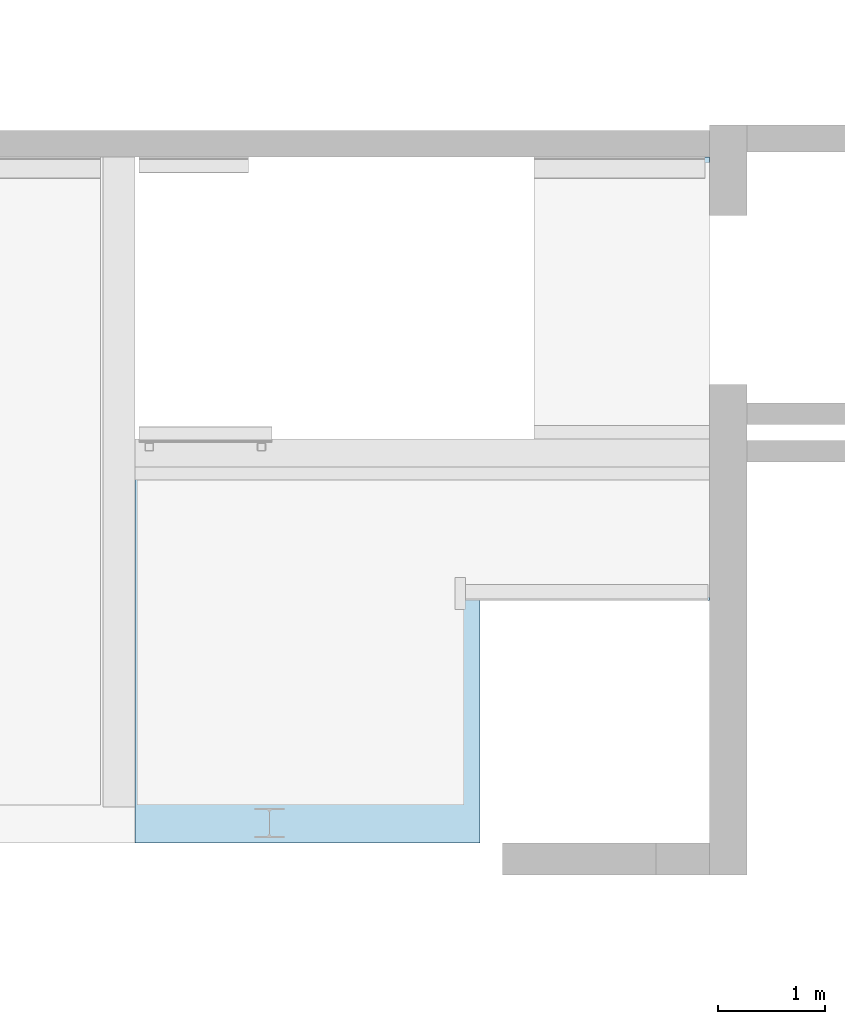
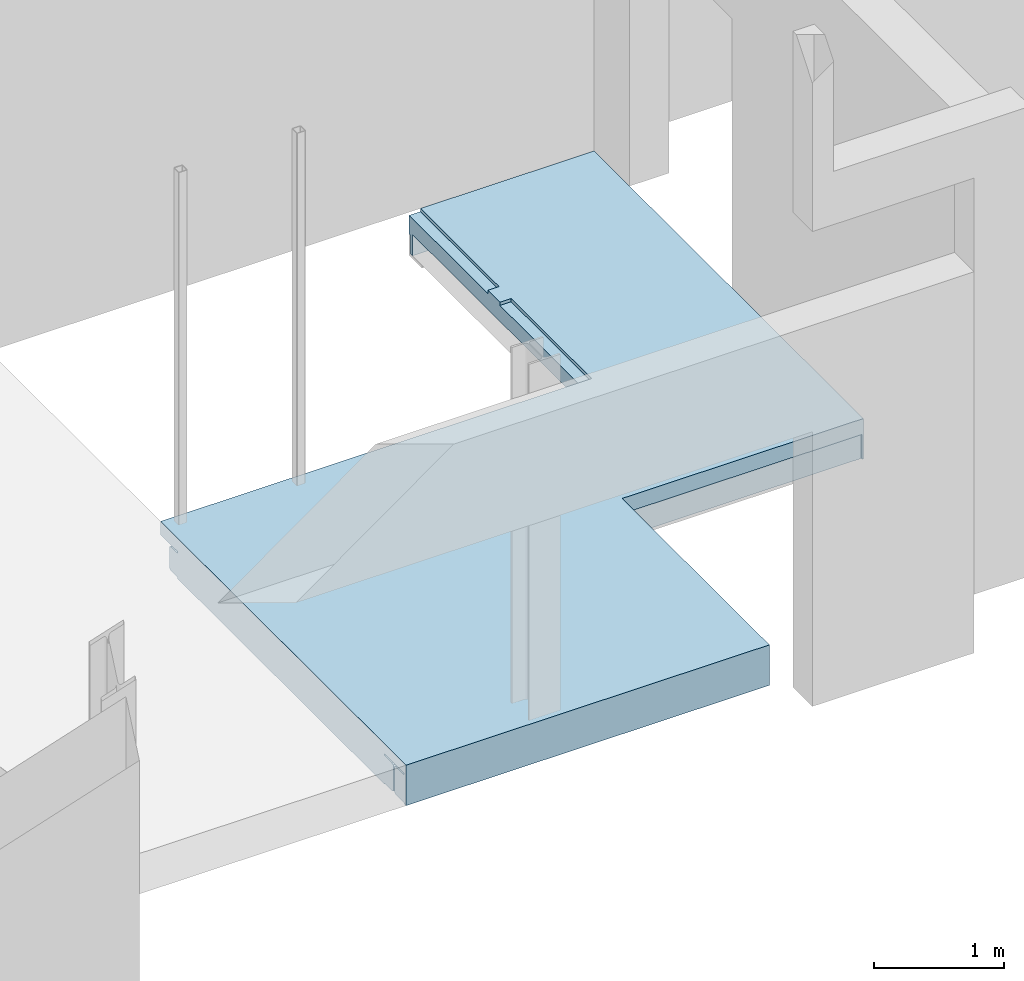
# One storey, part 35 of 37: 1 slab.
"""IFC2X3 building model written with IfcOpenShell, lengths in millimetres."""

from ifc_helpers import new_model, entity, si_unit, converted_unit, derived_unit, direction, frame, origin, place, context, subcontext, project, spatial, faceted_brep, material, type_object, element, save


model = new_model("IFC2X3")

# Units and contexts
model_context = context("Model", 3, precision=0.01, world=origin(), true_north=direction((6.12303176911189e-17, 1.0)))
body_context = subcontext(model_context, "Body", "Model", "MODEL_VIEW")
ifc_project = project(units=[si_unit("LENGTHUNIT", "METRE", prefix="MILLI"), si_unit("AREAUNIT", "SQUARE_METRE", prefix="MILLI"), si_unit("VOLUMEUNIT", "CUBIC_METRE"), converted_unit("PLANEANGLEUNIT", "DEGREE", entity("IfcRatioMeasure", 0.0174532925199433), si_unit("PLANEANGLEUNIT", "RADIAN"), dimensions=[0, 0, 0, 0, 0, 0, 0]), si_unit("MASSUNIT", "GRAM", prefix="KILO"), derived_unit("MASSDENSITYUNIT", [(si_unit("MASSUNIT", "GRAM", prefix="KILO"), 1), (si_unit("LENGTHUNIT", "METRE"), -3)]), derived_unit("MOMENTOFINERTIAUNIT", [(si_unit("LENGTHUNIT", "METRE"), 4)]), si_unit("TIMEUNIT", "SECOND"), si_unit("FREQUENCYUNIT", "HERTZ"), si_unit("THERMODYNAMICTEMPERATUREUNIT", "DEGREE_CELSIUS"), derived_unit("THERMALTRANSMITTANCEUNIT", [(si_unit("MASSUNIT", "GRAM", prefix="KILO"), 1), (si_unit("THERMODYNAMICTEMPERATUREUNIT", "KELVIN"), -1), (si_unit("TIMEUNIT", "SECOND"), -3)]), derived_unit("VOLUMETRICFLOWRATEUNIT", [(si_unit("LENGTHUNIT", "METRE"), 3), (si_unit("TIMEUNIT", "SECOND"), -1)]), si_unit("ELECTRICCURRENTUNIT", "AMPERE"), si_unit("ELECTRICVOLTAGEUNIT", "VOLT"), si_unit("POWERUNIT", "WATT"), si_unit("FORCEUNIT", "NEWTON", prefix="KILO"), si_unit("ILLUMINANCEUNIT", "LUX"), si_unit("LUMINOUSFLUXUNIT", "LUMEN"), si_unit("LUMINOUSINTENSITYUNIT", "CANDELA"), derived_unit("USERDEFINED", [(si_unit("MASSUNIT", "GRAM", prefix="KILO"), -1), (si_unit("LENGTHUNIT", "METRE"), -2), (si_unit("TIMEUNIT", "SECOND"), 3), (si_unit("LUMINOUSFLUXUNIT", "LUMEN"), 1)]), derived_unit("LINEARVELOCITYUNIT", [(si_unit("LENGTHUNIT", "METRE"), 1), (si_unit("TIMEUNIT", "SECOND"), -1)]), si_unit("PRESSUREUNIT", "PASCAL"), derived_unit("USERDEFINED", [(si_unit("LENGTHUNIT", "METRE"), -2), (si_unit("MASSUNIT", "GRAM", prefix="KILO"), 1), (si_unit("TIMEUNIT", "SECOND"), -2)]), derived_unit("LINEARFORCEUNIT", [(si_unit("MASSUNIT", "GRAM", prefix="KILO"), 1), (si_unit("LENGTHUNIT", "METRE"), 1), (si_unit("TIMEUNIT", "SECOND"), -2), (si_unit("LENGTHUNIT", "METRE"), -1)]), derived_unit("PLANARFORCEUNIT", [(si_unit("MASSUNIT", "GRAM", prefix="KILO"), 1), (si_unit("LENGTHUNIT", "METRE"), 1), (si_unit("TIMEUNIT", "SECOND"), -2), (si_unit("LENGTHUNIT", "METRE"), -2)])], contexts=[model_context])

# Site, building, storey
site_placement = place(None, origin())
site = spatial("IfcSite", under=ifc_project, at=site_placement, Name="Theater aan de Parade", CompositionType="ELEMENT")
building_placement = place(site_placement, origin())
building = spatial("IfcBuilding", under=site, at=building_placement, Name="Theater aan de Parade", CompositionType="ELEMENT")
storey_placement = place(building_placement, frame((0.0, 0.0, 5020.0)))
storey = spatial("IfcBuildingStorey", under=building, at=storey_placement, Name="01 eerste verdieping", CompositionType="ELEMENT", Elevation=5020.0)

# Slab
ifc_material = material(Name="00_PBT_MAT_beton t.p.g._C30/37")
slab_type = type_object("IfcSlabType", Name="Floor:28_PBT_FL_druklaag_d=180 (=380)_C30/37", PredefinedType="FLOOR")
slab_placement = place(storey_placement, origin())
element("IfcSlab", 1, at=slab_placement, inside=storey, type_object=slab_type, material=ifc_material, Name="Floor:28_PBT_FL_druklaag_d=180 (=380)_C30/37", ObjectType="Floor:28_PBT_FL_druklaag_d=180 (=380)_C30/37", PredefinedType="FLOOR", context=body_context, shape_type="Brep", body=[
    faceted_brep([(65076.2561009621, 45117.5638256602, -460.0), (65212.0520755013, 45117.5638256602, -460.0), (65212.0520755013, 42850.0, -460.0), (64962.0520755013, 42850.0, -460.0), (61983.8822563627, 42850.0, -460.0), (61983.8822563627, 42885.0, -460.0), (65093.8848518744, 42885.0, -460.0), (65093.8848518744, 43185.0, -460.0), (61983.8822563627, 43185.0, -460.0), (61983.8822563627, 46366.8631171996, -460.0), (67356.2561009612, 46366.8631171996, -460.0), (67356.2561009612, 46346.8631171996, -460.0), (62001.4285714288, 46346.8631171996, -460.0), (62001.4285714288, 43205.0, -460.0), (65062.0520755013, 43205.0, -460.0), (65062.0520755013, 45142.5638256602, -460.0), (65066.2561009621, 45142.5638256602, -460.0), (65066.2561009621, 45032.5639256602, -460.0), (65076.2561009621, 45032.5639256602, -460.0), (67343.5561009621, 45142.5638256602, -460.0), (67356.2561009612, 45142.5638256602, -460.0), (67356.2561009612, 45117.5638256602, -460.0), (67343.5561009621, 45117.5638256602, -460.0), (67343.5561009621, 45132.5638256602, -460.0), (65076.2561009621, 45132.5638256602, -460.0), (65076.2561009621, 45142.5638256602, -460.0), (65713.8822564, 46646.8631171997, -460.0), (67356.2561009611, 46646.8631171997, -460.0), (67356.2561009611, 46626.8631171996, -460.0), (65713.8822564, 46626.8631171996, -460.0), (67356.2561009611, 49261.9979908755, -460.0), (67356.2561009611, 49211.5644848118, -460.0), (65713.8822564, 49211.5644848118, -460.0), (65713.8822564, 49236.4478904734, -460.0), (67313.8822523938, 49236.4478904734, -460.0), (67313.8822523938, 49261.9979908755, -460.0), (67356.2561009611, 49211.5644848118, -260.0), (67356.2561009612, 46646.8631171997, -260.0), (65713.8822564, 46646.8631171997, -260.0), (65713.8822564, 49211.5644848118, -260.0), (62001.4285714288, 43205.0, -260.0), (62001.4285714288, 46346.8631171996, -260.0), (67356.2561009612, 46346.8631171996, -260.0), (67356.2561009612, 45142.5638256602, -260.0), (65076.2561009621, 45142.5638256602, -260.0), (65076.2561009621, 45332.5639256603, -260.0), (65066.2561009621, 45332.5639256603, -260.0), (64976.2561009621, 45332.5639256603, -260.0), (64976.2561009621, 45032.5639256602, -260.0), (65062.0520755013, 45032.5639256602, -260.0), (65062.0520755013, 43205.0, -260.0), (65066.2561009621, 45142.5638256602, -260.0), (65062.0520755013, 45142.5638256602, -260.0), (65076.2561009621, 45132.5638256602, -250.0), (65076.2561009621, 45332.5639256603, -250.0), (65076.2561009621, 45032.5639256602, -250.0), (65076.2561009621, 45117.5638256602, -250.0), (65813.8822564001, 46626.8631171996, -80.0), (61983.8822563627, 46626.8631171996, -80.0), (61983.8822563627, 42850.0, -80.0), (65212.0520755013, 42850.0, -80.0), (65212.0520755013, 45117.5638256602, -80.0), (67356.2561009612, 45117.5638256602, -80.0), (67356.2561009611, 49261.9979908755, -80.0), (65813.8822564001, 49261.9979908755, -80.0), (65813.8822564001, 48051.9979908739, -80.0), (65713.8822564, 48051.9979908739, -80.0), (65713.8822564, 47866.8631171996, -80.0), (65813.8822564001, 47866.8631171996, -80.0), (61983.8822563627, 46626.8631171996, -205.0), (61983.8822563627, 46366.8631171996, -205.0), (61983.8822563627, 46366.8631171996, -222.499999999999), (61983.8822563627, 46467.8631171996, -222.499999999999), (61983.8822563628, 46472.1057578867, -224.257359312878), (61983.8822563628, 46476.3483985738, -226.014718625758), (61983.8822563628, 46480.591039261, -227.772077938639), (61983.8822563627, 46484.8336799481, -229.529437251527), (61983.8822563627, 46486.591039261, -233.772077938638), (61983.8822563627, 46488.3483985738, -238.014718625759), (61983.8822563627, 46490.2715136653, -242.657529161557), (61983.8822563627, 46491.8631171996, -246.499999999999), (61983.8822563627, 46491.8631171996, -423.499999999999), (61983.8822563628, 46490.1057578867, -427.742640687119), (61983.8822563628, 46488.3483985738, -431.985281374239), (61983.8822563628, 46486.591039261, -436.227922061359), (61983.8822563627, 46484.8336799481, -440.47056274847), (61983.8822563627, 46480.591039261, -442.227922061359), (61983.8822563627, 46476.3483985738, -443.985281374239), (61983.8822563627, 46471.705588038, -445.908396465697), (61983.8822563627, 46467.8631171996, -447.499999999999), (61983.8822563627, 46366.8631171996, -447.499999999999), (61983.8822563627, 43185.0, -451.0), (61983.8822563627, 43066.2499999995, -451.0), (61983.8822563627, 43061.4770292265, -449.022970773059), (61983.8822563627, 43056.7040584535, -447.045941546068), (61983.8822563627, 43051.9310876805, -445.068912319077), (61983.8822563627, 43047.1581169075, -443.091883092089), (61983.8822563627, 43044.8444184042, -437.506120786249), (61983.8822563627, 43042.5307199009, -431.920358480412), (61983.8822563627, 43039.2499999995, -424.0), (61983.8822563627, 43039.2499999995, -216.0), (61983.8822563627, 43041.2270292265, -211.227029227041), (61983.8822563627, 43043.2040584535, -206.454058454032), (61983.8822563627, 43045.1810876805, -201.681087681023), (61983.8822563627, 43047.1581169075, -196.90811690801), (61983.8822563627, 43052.7438792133, -194.594418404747), (61983.8822563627, 43058.3296415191, -192.280719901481), (61983.8822563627, 43066.2499999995, -189.0), (61983.8822563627, 43185.0, -189.0), (61983.8822563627, 43185.0, -175.0), (61983.8822563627, 42885.0, -175.0), (61983.8822563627, 42885.0, -189.0), (61983.8822563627, 43003.7499999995, -189.0), (61983.8822563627, 43008.5229707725, -190.977029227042), (61983.8822563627, 43013.2959415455, -192.954058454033), (61983.8822563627, 43018.0689123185, -194.931087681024), (61983.8822563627, 43022.8418830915, -196.908116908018), (61983.8822563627, 43025.1555815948, -202.493879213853), (61983.8822563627, 43027.4692800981, -208.079641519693), (61983.8822563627, 43030.7499999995, -216.0), (61983.8822563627, 43030.7499999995, -424.0), (61983.8822563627, 43028.7729707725, -428.772970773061), (61983.8822563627, 43026.7959415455, -433.54594154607), (61983.8822563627, 43024.8189123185, -438.318912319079), (61983.8822563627, 43022.8418830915, -443.091883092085), (61983.8822563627, 43017.2561207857, -445.405581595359), (61983.8822563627, 43011.6703584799, -447.719280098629), (61983.8822563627, 43003.7499999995, -451.0), (61983.8822563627, 42885.0, -451.0), (65813.8822564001, 46626.8631171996, -110.0), (65713.8822564, 46626.8631171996, -110.0), (65713.8822564, 46626.8631171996, -205.0), (65713.8822564, 46626.8631171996, -447.5), (65713.8822564, 46525.8631171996, -447.5), (65713.8822564, 46521.6204765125, -445.742640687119), (65713.8822564, 46517.3778358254, -443.985281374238), (65713.8822564, 46513.1351951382, -442.227922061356), (65713.8822564, 46508.8925544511, -440.470562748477), (65713.8822564, 46507.1351951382, -436.227922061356), (65713.8822564, 46505.3778358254, -431.985281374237), (65713.8822564, 46503.6204765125, -427.742640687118), (65713.8822564, 46501.8631171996, -423.499999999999), (65713.8822564, 46501.8631171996, -246.499999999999), (65713.8822564, 46503.6204765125, -242.25735931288), (65713.8822564, 46505.3778358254, -238.014718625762), (65713.8822564, 46507.1351951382, -233.772077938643), (65713.8822564, 46508.8925544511, -229.529437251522), (65713.8822564, 46513.1351951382, -227.772077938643), (65713.8822564, 46517.3778358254, -226.014718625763), (65713.8822564, 46521.6204765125, -224.257359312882), (65713.8822564, 46525.8631171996, -222.5), (65713.8822564, 46626.8631171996, -222.499999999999), (65713.8822564, 47866.8631171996, -110.0), (65713.8822564, 48051.9979908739, -110.0), (65713.8822564, 49261.9979908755, -110.0), (65713.8822564, 49261.9979908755, -285.0), (65713.8822564, 49250.9979908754, -285.0), (65713.8822564, 49244.6340298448, -287.636038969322), (65713.8822564, 49241.9979908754, -294.0), (65713.8822564, 49241.9979908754, -447.0), (65713.8822564, 49241.2752050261, -450.533797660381), (65713.8822564, 49240.5524191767, -454.067595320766), (65713.8822564, 49238.5001548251, -457.033797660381), (67313.8822523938, 49261.9979908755, -285.0), (65813.8822564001, 49261.9979908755, -110.0), (67356.2561009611, 46626.8631171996, -447.5), (67356.2561009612, 46366.8631171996, -447.499999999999), (67356.2561009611, 46467.8631171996, -447.499999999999), (67356.2561009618, 46472.1057578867, -445.742640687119), (67356.2561009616, 46476.3483985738, -443.985281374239), (67356.2561009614, 46480.591039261, -442.227922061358), (67356.2561009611, 46484.8336799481, -440.470562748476), (67356.2561009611, 46486.7567950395, -435.827752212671), (67356.2561009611, 46488.679910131, -431.184941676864), (67356.2561009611, 46490.2715136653, -427.342470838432), (67356.2561009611, 46491.8631171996, -423.499999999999), (67356.2561009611, 46491.8631171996, -246.499999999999), (67356.2561009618, 46490.1057578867, -242.257359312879), (67356.2561009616, 46488.3483985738, -238.014718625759), (67356.2561009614, 46486.591039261, -233.772077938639), (67356.2561009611, 46484.8336799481, -229.529437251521), (67356.2561009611, 46480.1908694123, -227.606322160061), (67356.2561009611, 46475.5480588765, -225.683207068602), (67356.2561009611, 46471.705588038, -224.091603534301), (67356.2561009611, 46467.8631171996, -222.499999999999), (67356.2561009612, 46366.8631171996, -222.499999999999), (67356.2561009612, 46366.8631171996, -205.0), (67356.2561009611, 46626.8631171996, -205.0), (67356.2561009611, 46626.8631171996, -222.5), (67356.2561009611, 46525.8631171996, -222.5), (67356.2561009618, 46521.6204765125, -224.25735931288), (67356.2561009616, 46517.3778358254, -226.014718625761), (67356.2561009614, 46513.1351951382, -227.772077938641), (67356.2561009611, 46508.8925544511, -229.529437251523), (67356.2561009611, 46506.6794105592, -234.872439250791), (67356.2561009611, 46504.4662666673, -240.21544125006), (67356.2561009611, 46501.8631171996, -246.5), (67356.2561009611, 46501.8631171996, -423.5), (67356.2561009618, 46503.6204765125, -427.74264068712), (67356.2561009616, 46505.3778358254, -431.985281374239), (67356.2561009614, 46507.1351951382, -436.227922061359), (67356.2561009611, 46508.8925544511, -440.470562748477), (67356.2561009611, 46514.2355564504, -442.683706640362), (67356.2561009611, 46519.5785584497, -444.896850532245), (67356.2561009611, 46525.8631171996, -447.5), (65212.0520755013, 45117.5638256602, -225.0), (67343.5561009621, 45117.5638256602, -225.0), (67313.8822523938, 49239.078105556, -456.198785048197), (67313.8822523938, 49240.5518662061, -454.068890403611), (67313.8822523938, 49241.2749285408, -450.534445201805), (67313.8822523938, 49241.9979908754, -447.0), (67313.8822523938, 49241.9979908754, -294.0), (67313.8822523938, 49244.6340298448, -287.636038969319), (67313.8822523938, 49250.9979908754, -285.0), (65093.8848518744, 43066.2499999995, -451.0), (65093.8848518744, 43185.0, -451.0), (65093.8848518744, 42885.0, -451.0), (65093.8848518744, 43003.7499999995, -451.0), (65093.8848518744, 43008.5229707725, -449.02297077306), (65093.8848518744, 43013.2959415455, -447.045941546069), (65093.8848518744, 43018.0689123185, -445.068912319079), (65093.8848518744, 43022.8418830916, -443.091883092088), (65093.8848518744, 43024.8189123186, -438.318912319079), (65093.8848518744, 43026.7959415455, -433.54594154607), (65093.8848518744, 43028.7729707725, -428.772970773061), (65093.8848518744, 43030.7499999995, -424.0), (65093.8848518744, 43030.7499999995, -216.0), (65093.8848518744, 43028.7729707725, -211.227029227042), (65093.8848518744, 43026.7959415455, -206.454058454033), (65093.8848518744, 43024.8189123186, -201.681087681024), (65093.8848518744, 43022.8418830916, -196.908116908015), (65093.8848518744, 43018.0689123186, -194.931087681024), (65093.8848518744, 43013.2959415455, -192.954058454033), (65093.8848518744, 43008.5229707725, -190.977029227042), (65093.8848518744, 43003.7499999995, -189.0), (65093.8848518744, 42885.0, -189.0), (65093.8848518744, 42885.0, -175.0), (65093.8848518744, 43185.0, -175.0), (65093.8848518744, 43185.0, -189.0), (65093.8848518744, 43066.2499999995, -189.0), (65093.8848518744, 43061.4770292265, -190.977029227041), (65093.8848518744, 43056.7040584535, -192.954058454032), (65093.8848518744, 43051.9310876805, -194.931087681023), (65093.8848518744, 43047.1581169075, -196.908116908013), (65093.8848518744, 43045.1810876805, -201.681087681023), (65093.8848518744, 43043.2040584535, -206.454058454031), (65093.8848518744, 43041.2270292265, -211.22702922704), (65093.8848518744, 43039.2499999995, -216.0), (65093.8848518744, 43039.2499999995, -424.0), (65093.8848518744, 43041.2270292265, -428.772970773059), (65093.8848518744, 43043.2040584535, -433.545941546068), (65093.8848518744, 43045.1810876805, -438.318912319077), (65093.8848518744, 43047.1581169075, -443.091883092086), (65093.8848518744, 43051.9310876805, -445.068912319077), (65093.8848518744, 43056.7040584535, -447.045941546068), (65093.8848518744, 43061.4770292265, -449.022970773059), (65066.2561009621, 45032.5639256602, -260.0), (64976.2561009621, 45032.5639256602, -250.0), (64976.2561009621, 45332.5639256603, -250.0), (65076.2561009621, 45132.5638256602, -225.0), (65076.2561009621, 45117.5638256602, -225.0), (67343.5561009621, 45132.5638256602, -225.0), (65813.8822564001, 48051.9979908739, -110.0), (65813.8822564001, 47866.8631171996, -110.0)], [[[0, 1, 2, 3, 4, 5, 6, 7, 8, 9, 10, 11, 12, 13, 14, 15, 16, 17, 18]], [[19, 20, 21, 22, 23, 24, 25]], [[26, 27, 28, 29]], [[30, 31, 32, 33, 34, 35]], [[36, 37, 38, 39]], [[40, 41, 42, 43, 44, 45, 46, 47, 48, 49, 50]], [[51, 16, 15, 52]], [[44, 43, 20, 19, 25]], [[24, 53, 54, 45, 44, 25]], [[0, 18, 55, 56]], [[57, 58, 59, 60, 61, 62, 63, 64, 65, 66, 67, 68]], [[5, 4, 59, 58, 69, 70, 71, 72, 73, 74, 75, 76, 77, 78, 79, 80, 81, 82, 83, 84, 85, 86, 87, 88, 89, 90, 9, 8, 91, 92, 93, 94, 95, 96, 97, 98, 99, 100, 101, 102, 103, 104, 105, 106, 107, 108, 109, 110, 111, 112, 113, 114, 115, 116, 117, 118, 119, 120, 121, 122, 123, 124, 125, 126, 127, 128]], [[69, 58, 57, 129, 130, 131]], [[26, 29, 132, 133, 134, 135, 136, 137, 138, 139, 140, 141, 142, 143, 144, 145, 146, 147, 148, 149, 150, 151, 131, 130, 152, 67, 66, 153, 154, 155, 156, 157, 158, 159, 160, 161, 162, 33, 32, 39, 38]], [[163, 155, 154, 164, 64, 63, 30, 35]], [[165, 28, 27, 37, 36, 31, 30, 63, 62, 21, 20, 43, 42, 11, 10, 166, 167, 168, 169, 170, 171, 172, 173, 174, 175, 176, 177, 178, 179, 180, 181, 182, 183, 184, 185, 186, 187, 188, 189, 190, 191, 192, 193, 194, 195, 196, 197, 198, 199, 200, 201, 202, 203, 204]], [[21, 62, 61, 205, 206, 22]], [[2, 1, 205, 61, 60]], [[3, 2, 60, 59, 4]], [[35, 34, 207, 208, 209, 210, 211, 212, 213, 163]], [[211, 210, 159, 158]], [[208, 207, 161]], [[162, 34, 33]], [[162, 207, 34]], [[209, 161, 160]], [[160, 159, 210]], [[209, 160, 210]], [[209, 208, 161]], [[162, 161, 207]], [[163, 213, 156, 155]], [[211, 158, 157, 212]], [[157, 156, 213, 212]], [[40, 13, 12, 41]], [[41, 12, 11, 42]], [[39, 32, 31, 36]], [[49, 52, 15, 14, 50]], [[50, 14, 13, 40]], [[37, 27, 26, 38]], [[214, 215, 7, 6, 216, 217, 218, 219, 220, 221, 222, 223, 224, 225, 226, 227, 228, 229, 230, 231, 232, 233, 234, 235, 236, 237, 238, 239, 240, 241, 242, 243, 244, 245, 246, 247, 248, 249, 250, 251, 252, 253, 254, 255]], [[237, 109, 108, 238]], [[215, 91, 8, 7]], [[238, 108, 107, 239]], [[234, 112, 111, 235]], [[106, 105, 104, 243, 242, 241, 240, 239, 107]], [[103, 102, 101, 100, 247, 246, 245, 244, 243, 104]], [[247, 100, 99, 248]], [[98, 97, 96, 252, 251, 250, 249, 248, 99]], [[95, 94, 93, 92, 214, 255, 254, 253, 252, 96]], [[214, 92, 91, 215]], [[216, 128, 127, 217]], [[6, 5, 128, 216]], [[235, 111, 110, 236]], [[126, 125, 124, 221, 220, 219, 218, 217, 127]], [[123, 122, 121, 120, 225, 224, 223, 222, 221, 124]], [[225, 120, 119, 226]], [[118, 117, 116, 230, 229, 228, 227, 226, 119]], [[115, 114, 113, 112, 234, 233, 232, 231, 230, 116]], [[236, 110, 109, 237]], [[71, 70, 186, 185]], [[90, 166, 10, 9]], [[72, 71, 185, 184]], [[151, 150, 189, 188]], [[75, 74, 73, 72, 184, 183, 182, 181, 180, 76]], [[76, 180, 179, 178, 177, 176, 80, 79, 78, 77]], [[81, 80, 176, 175]], [[84, 83, 82, 81, 175, 174, 173, 172, 171, 85]], [[85, 171, 170, 169, 168, 167, 89, 88, 87, 86]], [[90, 89, 167, 166]], [[133, 132, 165, 204]], [[132, 29, 28, 165]], [[131, 151, 188, 187]], [[203, 202, 201, 137, 136, 135, 134, 133, 204]], [[137, 201, 200, 199, 198, 197, 141, 140, 139, 138]], [[142, 141, 197, 196]], [[195, 194, 193, 146, 145, 144, 143, 142, 196]], [[146, 193, 192, 191, 190, 189, 150, 149, 148, 147]], [[131, 187, 186, 70, 69]], [[256, 49, 48, 257, 55, 18, 17]], [[54, 258, 47, 46, 45]], [[51, 256, 17, 16]], [[51, 52, 49, 256]], [[47, 258, 257, 48]], [[56, 55, 257, 258, 54, 53]], [[53, 259, 260, 56]], [[206, 261, 23, 22]], [[205, 1, 0, 56, 260]], [[205, 260, 259, 261, 206]], [[23, 261, 259, 53, 24]], [[164, 154, 153, 262]], [[263, 152, 130, 129]], [[153, 66, 65, 262]], [[164, 262, 65, 64]], [[263, 129, 57, 68]], [[152, 263, 68, 67]]]),
])

save(model, "model.ifc")
